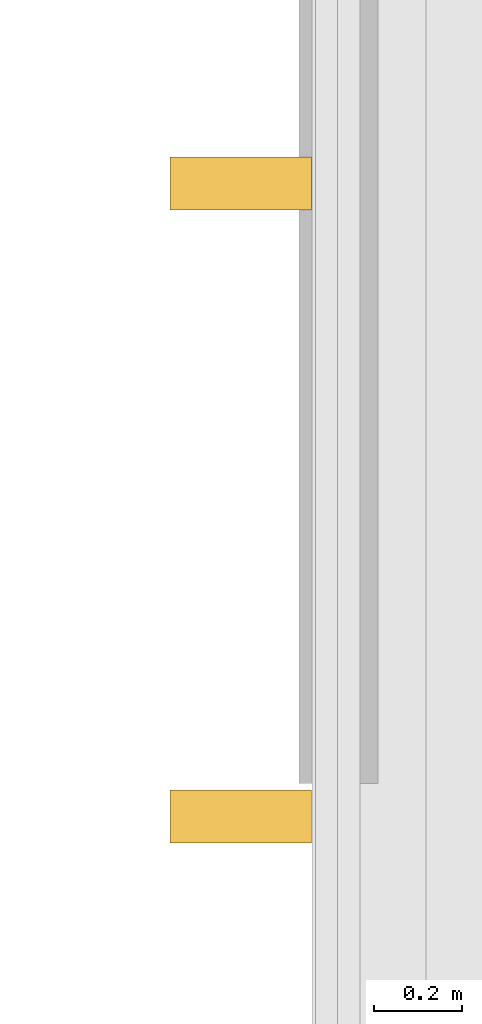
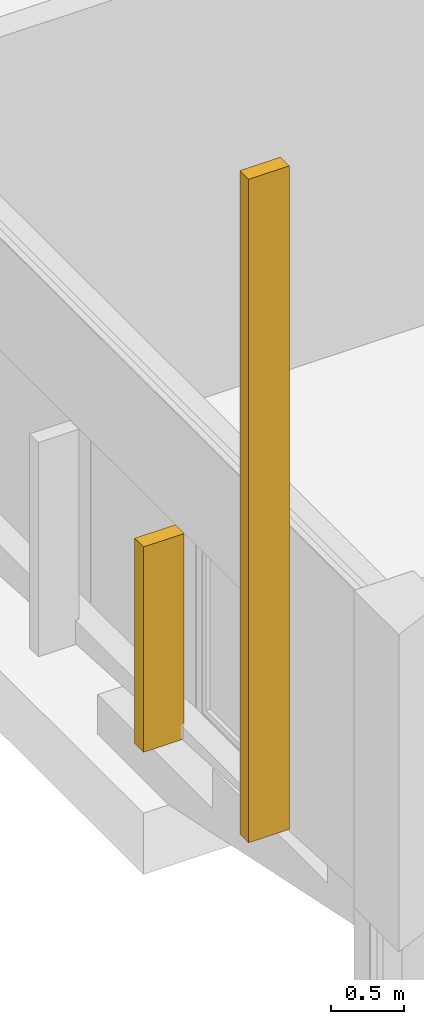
# One storey, part 56 of 65: 2 coverings.
"""IFC2X3 building model written with IfcOpenShell, lengths in millimetres."""

from ifc_helpers import new_model, entity, si_unit, converted_unit, derived_unit, money_unit, direction, frame, origin_with_axes, origin_2d_with_axis, place, context, subcontext, project, spatial, rectangle, extrude, material, type_object, element, save


model = new_model("IFC2X3")

# Units and contexts
model_context = context("Model", 3, precision=0.01, world=origin_with_axes(), true_north=direction((0.0, 1.0)))
body_context = subcontext(model_context, "Body", "Model", "MODEL_VIEW")
ifc_project = project(units=[si_unit("LENGTHUNIT", "METRE", prefix="MILLI"), si_unit("AREAUNIT", "SQUARE_METRE"), si_unit("VOLUMEUNIT", "CUBIC_METRE"), converted_unit("PLANEANGLEUNIT", "DEGREE", entity("IfcPlaneAngleMeasure", 0.0174532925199), si_unit("PLANEANGLEUNIT", "RADIAN"), dimensions=[0, 0, 0, 0, 0, 0, 0]), si_unit("SOLIDANGLEUNIT", "STERADIAN"), money_unit("EUR"), converted_unit("TIMEUNIT", "Year", entity("IfcTimeMeasure", 31556926.0), si_unit("TIMEUNIT", "SECOND"), dimensions=[0, 0, 1, 0, 0, 0, 0]), si_unit("MASSUNIT", "GRAM", prefix="KILO"), si_unit("THERMODYNAMICTEMPERATUREUNIT", "DEGREE_CELSIUS"), si_unit("LUMINOUSINTENSITYUNIT", "LUMEN"), si_unit("ENERGYUNIT", "JOULE", prefix="MEGA"), derived_unit("THERMALCONDUCTANCEUNIT", [(si_unit("POWERUNIT", "WATT"), 1), (si_unit("LENGTHUNIT", "METRE"), -1), (si_unit("THERMODYNAMICTEMPERATUREUNIT", "KELVIN"), -1)]), derived_unit("SPECIFICHEATCAPACITYUNIT", [(si_unit("ENERGYUNIT", "JOULE"), 1), (si_unit("MASSUNIT", "GRAM", prefix="KILO"), -1), (si_unit("THERMODYNAMICTEMPERATUREUNIT", "KELVIN"), -1)]), derived_unit("MASSDENSITYUNIT", [(si_unit("MASSUNIT", "GRAM", prefix="KILO"), 1), (si_unit("VOLUMEUNIT", "CUBIC_METRE"), -1)])], contexts=[model_context])

# Site, building, storey
site_placement = place(None, origin_with_axes())
site = spatial("IfcSite", under=ifc_project, at=site_placement, Name="Puškini 31, Narva", CompositionType="ELEMENT")
building_placement = place(site_placement, origin_with_axes())
building = spatial("IfcBuilding", under=site, at=building_placement, Name="Narva Riigigümnaasium", CompositionType="ELEMENT")
storey_placement = place(building_placement, frame((0.0, 0.0, -1320.0), z_axis=(0.0, 0.0, 1.0), x_axis=(1.0, 0.0, 0.0)))
storey = spatial("IfcBuildingStorey", under=building, at=storey_placement, Name="1.korrus -1.32", CompositionType="ELEMENT", Elevation=-1320.0)

# Coverings
ifc_material = material(Name="Puitroov")
covering_type = type_object("IfcCoveringType", Name="Puitroov 120 x 320", PredefinedType="NOTDEFINED")
covering_1_placement = place(storey_placement, frame((21779.9999985, 160550.000001, 1436.16813255), z_axis=(0.0, 0.0, 1.0), x_axis=(0.0, 1.0, 0.0)))
element("IfcCovering", 1, at=covering_1_placement, inside=storey, type_object=covering_type, material=ifc_material, Name="Lamell", PredefinedType="NOTDEFINED", context=body_context, shape_type="SweptSolid", body=[
    extrude(rectangle(XDim=120.0, YDim=320.0, at=origin_2d_with_axis()), origin_with_axes(), (0.0, 0.0, 1.0), 5523.83186745),
])
covering_2_placement = place(storey_placement, frame((21779.9999985, 161983.787819, 1320.0), z_axis=(0.0, 0.0, 1.0), x_axis=(0.0, 1.0, 0.0)))
element("IfcCovering", 2, at=covering_2_placement, inside=storey, type_object=covering_type, material=ifc_material, Name="Lamell", PredefinedType="NOTDEFINED", context=body_context, shape_type="SweptSolid", body=[
    extrude(rectangle(XDim=120.0, YDim=320.0, at=origin_2d_with_axis()), origin_with_axes(), (0.0, 0.0, 1.0), 1710.0),
])

save(model, "model.ifc")
